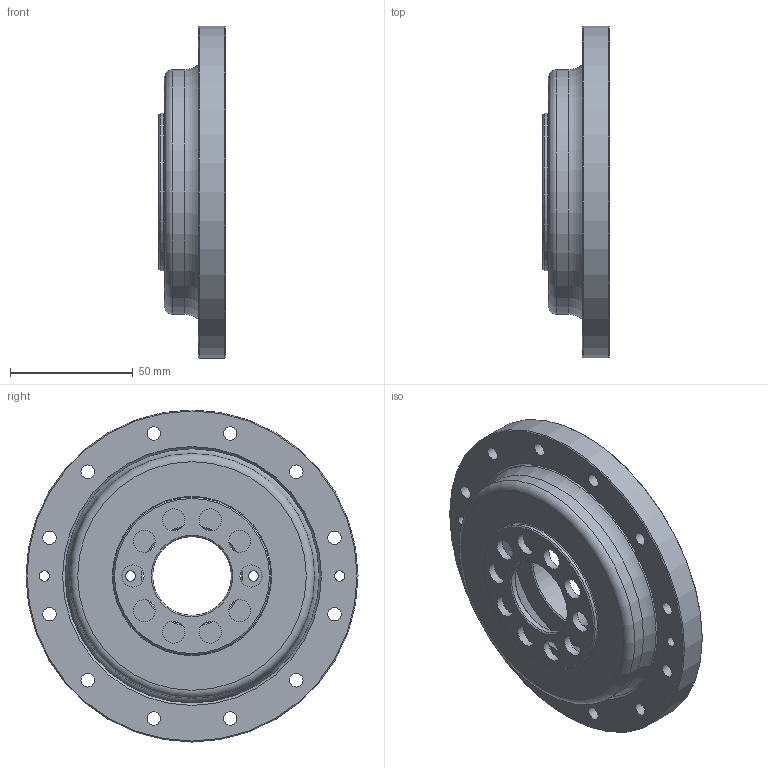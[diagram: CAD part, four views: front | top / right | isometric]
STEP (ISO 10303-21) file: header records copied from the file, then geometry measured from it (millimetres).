
FILE_DESCRIPTION (( 'STEP AP214' ), '1' );
FILE_NAME ('FCD-40-160-C.STEP', '2025-03-18T02:15:41', ( '微软用户' ), ( '微软中国' ), 'SwSTEP 2.0', 'SolidWorks 2016', '' );
FILE_SCHEMA (( 'AUTOMOTIVE_DESIGN' ));
Length unit declared in the file: millimetre
Products named in the file (1): FCD-40-160-C
Bounding box: 27 x 135 x 135 mm (x, y, z)
Volume: 141519.4 mm3; surface area: 94305.8 mm2
Topology: 29 solids, 29 shells, 229 faces, 591 edges, 391 vertices
Faces by surface type: cylinder 106, plane 75, sphere 23, cone 15, torus 10
Full cylindrical faces by diameter (mm): 4.2 x6, 5.5 x12, 9 x10, 10 x12, 32 x1, 40 x1, 64 x1, 70.72 x1, 71.12 x2, 75.52 x1, 76.25 x2, 78 x1, 84 x1, 90 x1, 93.22 x2, 98.17 x1, 98.171 x1, 99.57 x1, 103.22 x1, 103.222 x1, 135 x1
Entity records: 8945 total; most frequent: DIRECTION 1202, CARTESIAN_POINT 972, ORIENTED_EDGE 834, AXIS2_PLACEMENT_3D 555, EDGE_CURVE 417, EDGE_LOOP 376, CIRCLE 325, VERTEX_POINT 325
